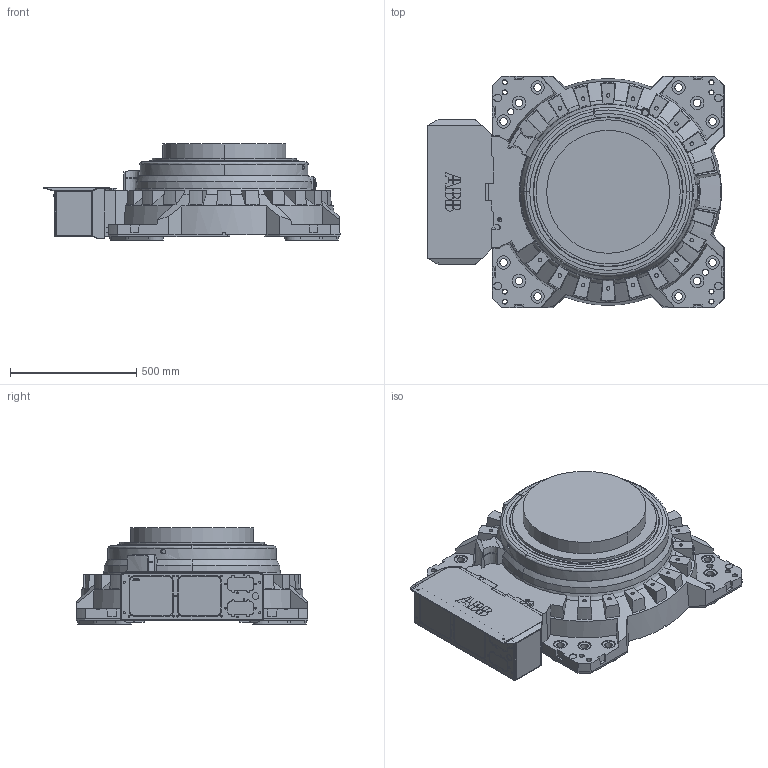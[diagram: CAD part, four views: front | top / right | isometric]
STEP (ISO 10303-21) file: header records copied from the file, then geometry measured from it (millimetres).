
FILE_DESCRIPTION (( 'STEP AP203' ), '1' );
FILE_NAME ('IRB8700-MH6_800-350_IRC5_rev01_BASE_CAD.STEP', '2015-06-04T08:28:58', ( 'ABB' ), ( 'ABB' ), 'SwSTEP 2.0', 'SolidWorks 2014', '' );
FILE_SCHEMA (( 'CONFIG_CONTROL_DESIGN' ));
Length unit declared in the file: millimetre
Products named in the file (1): IRB8700-MH6_800-350_IRC5_rev01_BASE_CAD
Bounding box: 1175 x 920 x 380.9 mm (x, y, z)
Volume: 191802839.6 mm3; surface area: 3235228.6 mm2
Topology: 1 solids, 8 shells, 1073 faces, 2788 edges, 1826 vertices
Faces by surface type: plane 598, cylinder 312, cone 123, bspline 40
Entity records: 35138 total; most frequent: CARTESIAN_POINT 8628, ORIENTED_EDGE 5572, DIRECTION 5417, EDGE_CURVE 2786, AXIS2_PLACEMENT_3D 1917, VERTEX_POINT 1826, LINE 1583, VECTOR 1583
